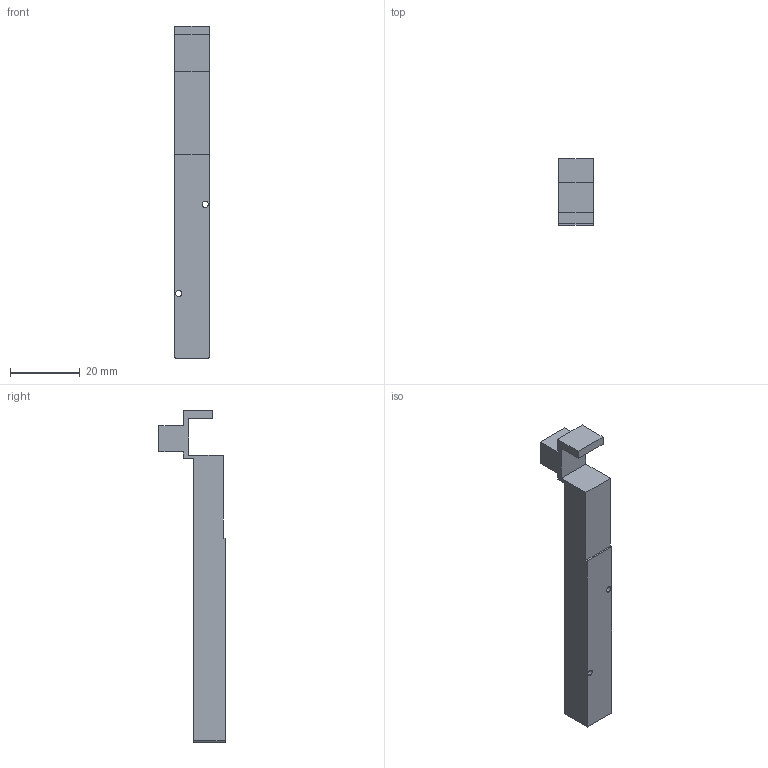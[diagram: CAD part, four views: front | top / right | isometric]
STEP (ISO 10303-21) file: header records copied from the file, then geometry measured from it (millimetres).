
FILE_DESCRIPTION( (''), '2;1');
FILE_NAME ('CVICAD02.11724.F10ZX-XPxx_6623.stp','2020-09-01T14:14:27',(''),(''),'spGate 12.6.6','','');
FILE_SCHEMA (('AUTOMOTIVE_DESIGN'));
Length unit declared in the file: millimetre
Bounding box: 10 x 19 x 95.3 mm (x, y, z)
Volume: 7813.8 mm3; surface area: 4377.7 mm2
Topology: 1 solids, 1 shells, 35 faces, 98 edges, 66 vertices
Faces by surface type: plane 27, cylinder 8
Entity records: 1909 total; most frequent: CARTESIAN_POINT 205, ORIENTED_EDGE 196, DIRECTION 180, COLOUR_RGB 134, PRESENTATION_STYLE_ASSIGNMENT 134, STYLED_ITEM 134, EDGE_CURVE 98, DRAUGHTING_PRE_DEFINED_CURVE_FONT 98
